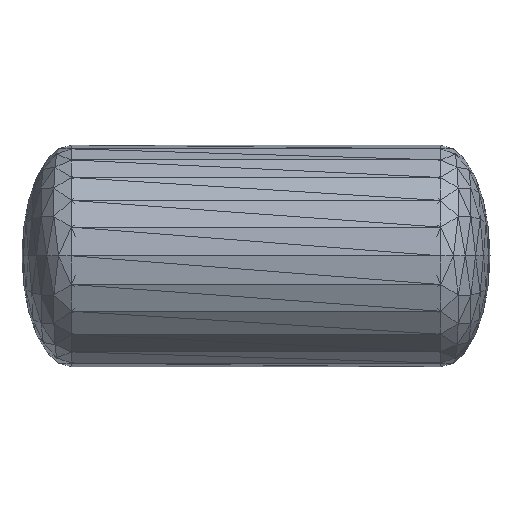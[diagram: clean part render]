
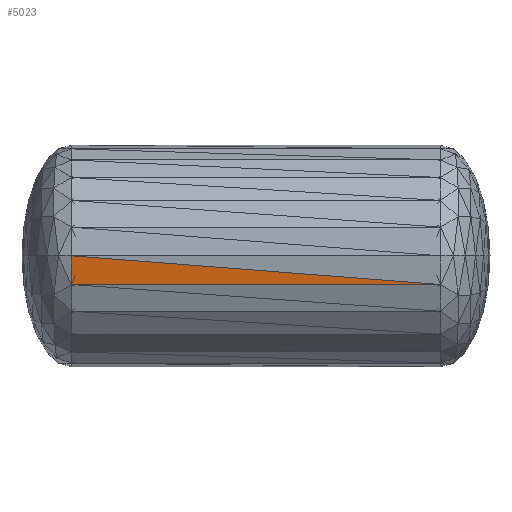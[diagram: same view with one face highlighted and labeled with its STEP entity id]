
A CAD part, top view. The second image highlights one B-rep face of the part: STEP entity #5023.
In plain terms, the highlighted planar face has unit normal (0, 0.131, -0.991).
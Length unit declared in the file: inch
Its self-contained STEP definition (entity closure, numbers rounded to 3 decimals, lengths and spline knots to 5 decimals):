
#4568=CARTESIAN_POINT('',(0.41254,-0.06418,0.61297));
#4569=VERTEX_POINT('',#4568);
#4752=CARTESIAN_POINT('',(-0.41228,-0.00013,0.62159));
#4753=VERTEX_POINT('',#4752);
#4787=CARTESIAN_POINT('',(0.41254,-0.06418,0.61297));
#4788=DIRECTION('',(-0.997,0.077,0.01));
#4789=VECTOR('',#4788,0.82752);
#4790=LINE('',#4787,#4789);
#4791=EDGE_CURVE('',#4569,#4753,#4790,.T.);
#4996=CARTESIAN_POINT('',(-0.41232,-0.06418,0.61314));
#4997=VERTEX_POINT('',#4996);
#4998=CARTESIAN_POINT('',(-0.41246,-0.06418,0.61314));
#4999=DIRECTION('',(0.,0.991,0.131));
#5000=VECTOR('',#4999,0.06461);
#5001=LINE('',#4998,#5000);
#5002=EDGE_CURVE('',#4997,#4753,#5001,.T.);
#5004=CARTESIAN_POINT('',(0.41254,-0.06418,0.61297));
#5005=DIRECTION('',(-1.,0.,0.));
#5006=VECTOR('',#5005,0.825);
#5007=LINE('',#5004,#5006);
#5008=EDGE_CURVE('',#4569,#4997,#5007,.T.);
#5013=CARTESIAN_POINT('',(-0.41246,-0.06418,0.61314));
#5014=DIRECTION('',(0.,-0.131,0.991));
#5015=DIRECTION('',(1.,0.,0.));
#5016=AXIS2_PLACEMENT_3D('',#5013,#5014,#5015);
#5017=PLANE('',#5016);
#5018=ORIENTED_EDGE('',*,*,#5002,.T.);
#5019=ORIENTED_EDGE('',*,*,#4791,.F.);
#5020=ORIENTED_EDGE('',*,*,#5008,.T.);
#5021=EDGE_LOOP('',(#5018,#5019,#5020));
#5022=FACE_BOUND('',#5021,.T.);
#5023=ADVANCED_FACE('',(#5022),#5017,.F.);
